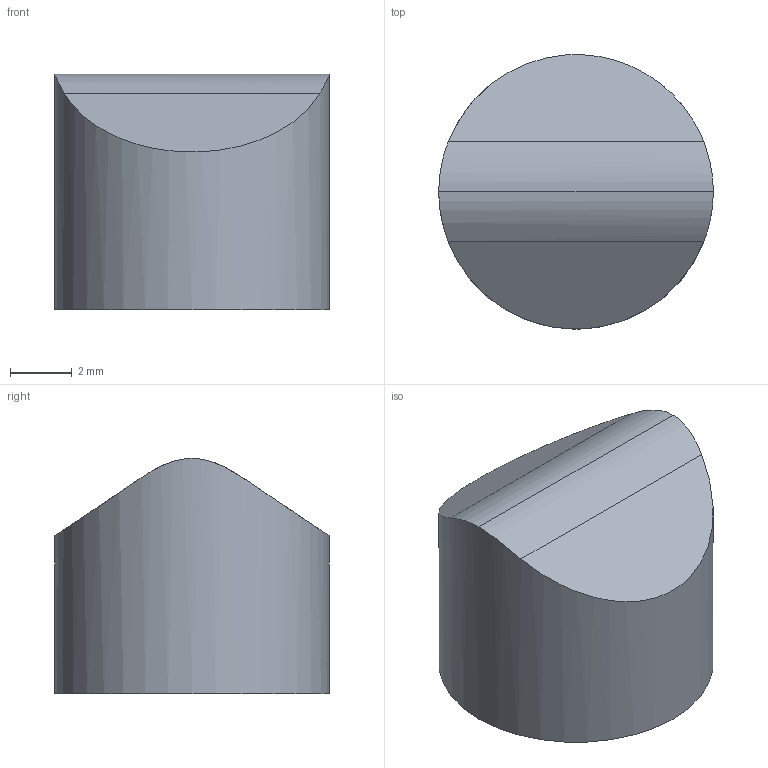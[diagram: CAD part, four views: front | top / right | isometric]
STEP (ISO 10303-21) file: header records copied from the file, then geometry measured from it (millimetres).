
FILE_DESCRIPTION(/* description */ ('Alibre Inc.'),/* implementation_level */ '2;1');
FILE_NAME(/* name */ 'export0',/* time_stamp */ '2011-07-18T15:01:15-04:00',/* author */ (''),/* organization */ (''),/* preprocessor_version */ 'ST-DEVELOPER v12',/* originating_system */ 'Alibre',/* authorisation */ '');
FILE_SCHEMA (('AUTOMOTIVE_DESIGN'));
Length unit declared in the file: centimetre
Bounding box: 8.89 x 8.89 x 7.62 mm (x, y, z)
Volume: 419.7 mm3; surface area: 305.5 mm2
Topology: 1 solids, 1 shells, 6 faces, 11 edges, 7 vertices
Faces by surface type: plane 3, bspline 2, cylinder 1
Full cylindrical faces by diameter (mm): 8.89 x1
Entity records: 195 total; most frequent: CARTESIAN_POINT 75, ORIENTED_EDGE 20, DIRECTION 14, EDGE_CURVE 10, VERTEX_POINT 7, EDGE_LOOP 7, FACE_BOUND 7, AXIS2_PLACEMENT_3D 7
